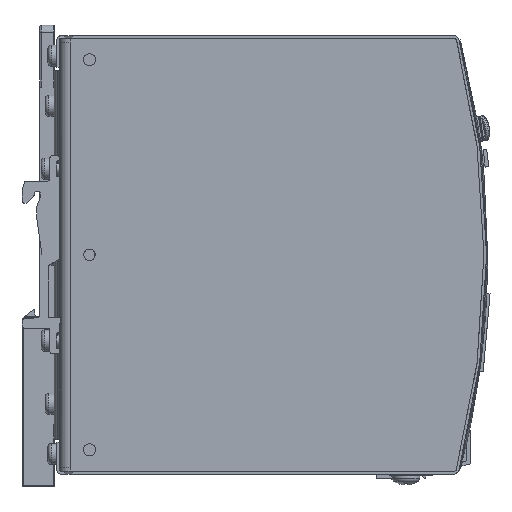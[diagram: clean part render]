
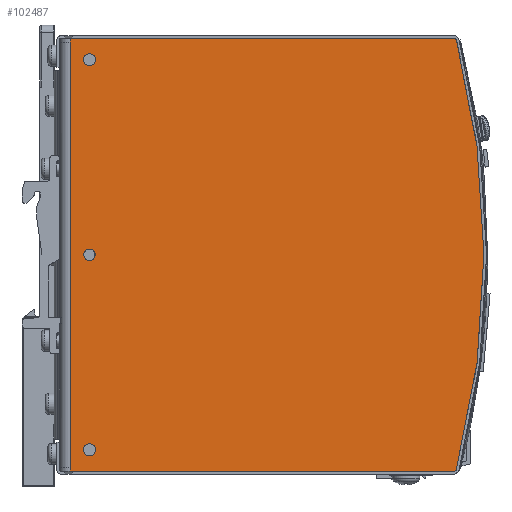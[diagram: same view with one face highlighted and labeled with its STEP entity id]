
A CAD part, front view. The second image highlights one B-rep face of the part: STEP entity #102487.
In plain terms, the highlighted planar face has unit normal (0, -1, 0).
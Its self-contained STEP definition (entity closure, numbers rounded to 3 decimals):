
#3275=FACE_BOUND('',#14508,.T.);
#3276=FACE_BOUND('',#14509,.T.);
#3277=FACE_BOUND('',#14510,.T.);
#4964=PLANE('',#107819);
#9214=FACE_OUTER_BOUND('',#14507,.T.);
#14507=EDGE_LOOP('',(#72323,#72324,#72325,#72326,#72327,#72328,#72329,#72330,
#72331,#72332));
#14508=EDGE_LOOP('',(#72333));
#14509=EDGE_LOOP('',(#72334));
#14510=EDGE_LOOP('',(#72335));
#21427=LINE('',#138277,#33814);
#21457=LINE('',#138382,#33844);
#21462=LINE('',#138392,#33849);
#21466=LINE('',#138403,#33853);
#21468=LINE('',#138407,#33855);
#21483=LINE('',#138449,#33870);
#21486=LINE('',#138453,#33873);
#33814=VECTOR('',#113821,108.593);
#33844=VECTOR('',#113925,0.1);
#33849=VECTOR('',#113934,1.);
#33853=VECTOR('',#113944,0.1);
#33855=VECTOR('',#113948,1.);
#33870=VECTOR('',#113989,108.593);
#33873=VECTOR('',#113994,120.3);
#46189=CIRCLE('',#107748,0.5);
#46192=CIRCLE('',#107752,240.);
#46197=CIRCLE('',#107759,0.5);
#46198=CIRCLE('',#107762,1.7);
#46199=CIRCLE('',#107764,1.7);
#46200=CIRCLE('',#107766,1.6);
#47200=VERTEX_POINT('',#138234);
#47201=VERTEX_POINT('',#138235);
#47205=VERTEX_POINT('',#138245);
#47216=VERTEX_POINT('',#138271);
#47217=VERTEX_POINT('',#138275);
#47218=VERTEX_POINT('',#138279);
#47219=VERTEX_POINT('',#138282);
#47220=VERTEX_POINT('',#138285);
#47253=VERTEX_POINT('',#138378);
#47255=VERTEX_POINT('',#138381);
#47260=VERTEX_POINT('',#138395);
#47262=VERTEX_POINT('',#138401);
#47263=VERTEX_POINT('',#138405);
#57172=EDGE_CURVE('',#47200,#47201,#46189,.T.);
#57178=EDGE_CURVE('',#47200,#47205,#46192,.T.);
#57191=EDGE_CURVE('',#47216,#47205,#46197,.T.);
#57193=EDGE_CURVE('',#47216,#47217,#21427,.T.);
#57194=EDGE_CURVE('',#47218,#47218,#46198,.T.);
#57195=EDGE_CURVE('',#47219,#47219,#46199,.T.);
#57196=EDGE_CURVE('',#47220,#47220,#46200,.T.);
#57241=EDGE_CURVE('',#47255,#47253,#21457,.T.);
#57247=EDGE_CURVE('',#47217,#47255,#21462,.T.);
#57253=EDGE_CURVE('',#47260,#47262,#21466,.T.);
#57255=EDGE_CURVE('',#47262,#47263,#21468,.T.);
#57276=EDGE_CURVE('',#47201,#47263,#21483,.T.);
#57279=EDGE_CURVE('',#47253,#47260,#21486,.T.);
#72323=ORIENTED_EDGE('',*,*,#57172,.F.);
#72324=ORIENTED_EDGE('',*,*,#57178,.T.);
#72325=ORIENTED_EDGE('',*,*,#57191,.F.);
#72326=ORIENTED_EDGE('',*,*,#57193,.T.);
#72327=ORIENTED_EDGE('',*,*,#57247,.T.);
#72328=ORIENTED_EDGE('',*,*,#57241,.T.);
#72329=ORIENTED_EDGE('',*,*,#57279,.T.);
#72330=ORIENTED_EDGE('',*,*,#57253,.T.);
#72331=ORIENTED_EDGE('',*,*,#57255,.T.);
#72332=ORIENTED_EDGE('',*,*,#57276,.F.);
#72333=ORIENTED_EDGE('',*,*,#57194,.T.);
#72334=ORIENTED_EDGE('',*,*,#57195,.T.);
#72335=ORIENTED_EDGE('',*,*,#57196,.T.);
#102487=ADVANCED_FACE('',(#9214,#3275,#3276,#3277),#4964,.T.);
#107748=AXIS2_PLACEMENT_3D('',#138236,#113783,#113784);
#107752=AXIS2_PLACEMENT_3D('',#138247,#113794,#113795);
#107759=AXIS2_PLACEMENT_3D('',#138273,#113816,#113817);
#107762=AXIS2_PLACEMENT_3D('',#138280,#113824,#113825);
#107764=AXIS2_PLACEMENT_3D('',#138283,#113828,#113829);
#107766=AXIS2_PLACEMENT_3D('',#138286,#113832,#113833);
#107819=AXIS2_PLACEMENT_3D('',#138455,#113997,#113998);
#113783=DIRECTION('center_axis',(0.,1.,0.));
#113784=DIRECTION('ref_axis',(0.611,0.,-0.792));
#113794=DIRECTION('center_axis',(0.,-1.,0.));
#113795=DIRECTION('ref_axis',(0.967,0.,0.255));
#113816=DIRECTION('center_axis',(0.,1.,0.));
#113817=DIRECTION('ref_axis',(0.611,0.,0.792));
#113821=DIRECTION('',(-1.,0.,0.));
#113824=DIRECTION('center_axis',(0.,1.,0.));
#113825=DIRECTION('ref_axis',(-1.,0.,0.));
#113828=DIRECTION('center_axis',(0.,1.,0.));
#113829=DIRECTION('ref_axis',(-1.,0.,0.));
#113832=DIRECTION('center_axis',(0.,1.,0.));
#113833=DIRECTION('ref_axis',(-1.,0.,0.));
#113925=DIRECTION('',(-1.,0.,0.));
#113934=DIRECTION('',(0.,0.,-1.));
#113944=DIRECTION('',(1.,0.,0.));
#113948=DIRECTION('',(0.,0.,-1.));
#113989=DIRECTION('',(-1.,0.,0.));
#113994=DIRECTION('',(0.,0.,-1.));
#113997=DIRECTION('center_axis',(0.,-1.,0.));
#113998=DIRECTION('ref_axis',(0.,0.,-1.));
#138234=CARTESIAN_POINT('',(112.177,-62.5,-60.777));
#138235=CARTESIAN_POINT('',(111.693,-62.5,-61.15));
#138236=CARTESIAN_POINT('Origin',(111.693,-62.5,-60.65));
#138245=CARTESIAN_POINT('',(112.177,-62.5,60.777));
#138247=CARTESIAN_POINT('Origin',(-120.,-62.5,0.));
#138271=CARTESIAN_POINT('',(111.693,-62.5,61.15));
#138273=CARTESIAN_POINT('Origin',(111.693,-62.5,60.65));
#138275=CARTESIAN_POINT('',(3.1,-62.5,61.15));
#138277=CARTESIAN_POINT('',(130.,-62.5,61.15));
#138279=CARTESIAN_POINT('',(10.2,-62.5,55.15));
#138280=CARTESIAN_POINT('Origin',(8.5,-62.5,55.15));
#138282=CARTESIAN_POINT('',(10.2,-62.5,-55.15));
#138283=CARTESIAN_POINT('Origin',(8.5,-62.5,-55.15));
#138285=CARTESIAN_POINT('',(10.1,-62.5,0.));
#138286=CARTESIAN_POINT('Origin',(8.5,-62.5,0.));
#138378=CARTESIAN_POINT('',(3.,-62.5,60.15));
#138381=CARTESIAN_POINT('',(3.1,-62.5,60.15));
#138382=CARTESIAN_POINT('',(65.,-62.5,60.15));
#138392=CARTESIAN_POINT('',(3.1,-62.5,-0.25));
#138395=CARTESIAN_POINT('',(3.,-62.5,-60.15));
#138401=CARTESIAN_POINT('',(3.1,-62.5,-60.15));
#138403=CARTESIAN_POINT('',(65.,-62.5,-60.15));
#138405=CARTESIAN_POINT('',(3.1,-62.5,-61.15));
#138407=CARTESIAN_POINT('',(3.1,-62.5,-60.9));
#138449=CARTESIAN_POINT('',(130.,-62.5,-61.15));
#138453=CARTESIAN_POINT('',(3.,-62.5,-61.15));
#138455=CARTESIAN_POINT('Origin',(130.,-62.5,-61.15));
